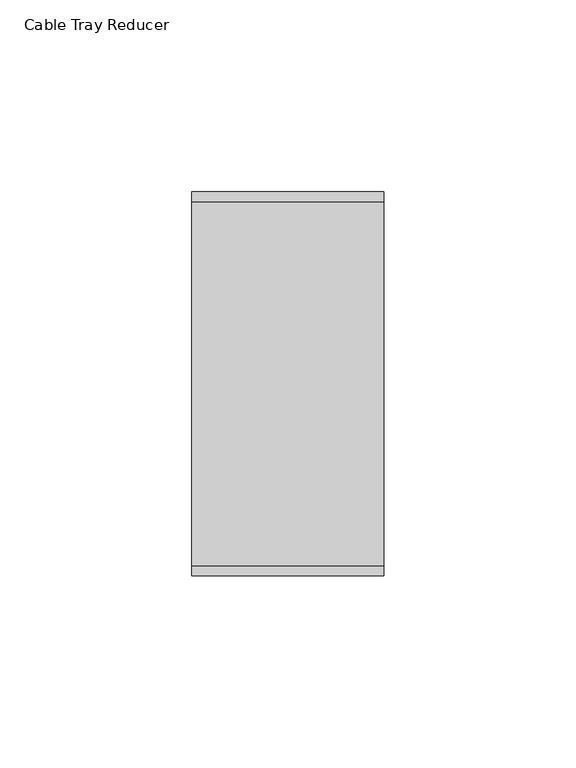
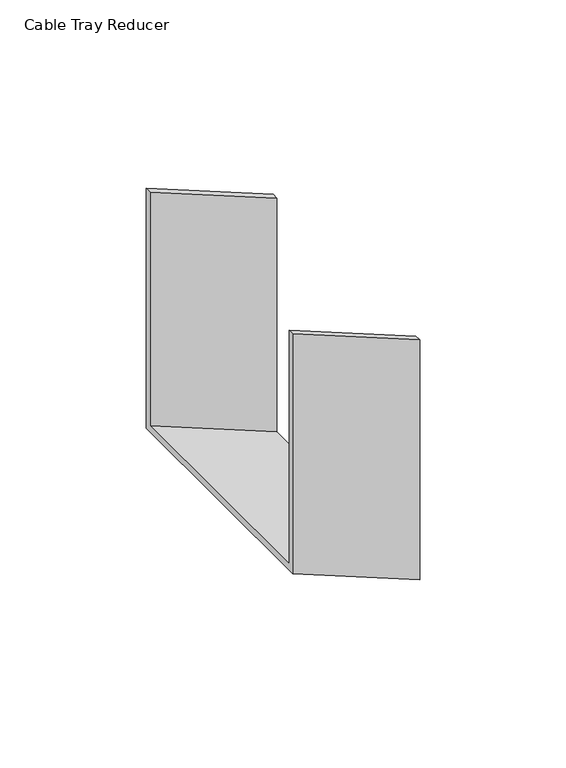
"""IFC4 building model written with IfcOpenShell, lengths in millimetres: cable carrier fitting geometry, Cable Tray Reducer : ELEC_ELV_TKG_N2402."""

from ifc_helpers import new_model, si_unit, origin, place, context, project, spatial, faceted_brep, source, transform, mapped, element, save


def cable_tray_reducer_8bddff3d(model_context):
    return source(origin(), model_context, "Body", "Brep", [
        faceted_brep([(50.0, -50.0, -69.9999959), (50.0, 50.0, -69.9999959), (50.0, 50.0, 30.0000041), (50.0, 47.46, 30.0000041), (50.0, 47.46, -67.4599959), (50.0, -47.46, -67.4599959), (50.0, -47.46, 30.0000041), (50.0, -50.0, 30.0000041), (0.0, -50.0, -50.0), (0.0, -50.0, 50.0), (0.0, -47.46, 50.0), (0.0, -47.46, -47.46), (0.0, 47.46, -47.46), (0.0, 47.46, 50.0), (0.0, 50.0, 50.0), (0.0, 50.0, -50.0)], [[[0, 1, 2, 3, 4, 5, 6, 7]], [[8, 9, 10, 11, 12, 13, 14, 15]], [[8, 15, 1, 0]], [[15, 14, 2, 1]], [[14, 13, 3, 2]], [[13, 12, 4, 3]], [[12, 11, 5, 4]], [[11, 10, 6, 5]], [[10, 9, 7, 6]], [[9, 8, 0, 7]]]),
    ])


if __name__ == "__main__":
    model = new_model("IFC4")
    model_context = context("Model", 3, world=origin())
    ifc_project = project(units=[si_unit("LENGTHUNIT", "METRE", prefix="MILLI")], contexts=[model_context])
    site = spatial("IfcSite", under=ifc_project)
    building = spatial("IfcBuilding", under=site)
    placement = place(None, origin())
    cable_tray_reducer_shape = cable_tray_reducer_8bddff3d(model_context)
    element("IfcCableCarrierFitting", 1, ObjectType="Cable Tray Reducer : ELEC_ELV_TKG_N2402", at=placement, inside=building, context=model_context, shape_type="MappedRepresentation", body=[
        mapped(cable_tray_reducer_shape, transform((0.0, 0.0, 0.0), x_axis=(1.0, 0.0, 0.0), y_axis=(0.0, 1.0, 0.0), z_axis=(0.0, 0.0, 1.0))),
    ])
    save(model, "model.ifc")
